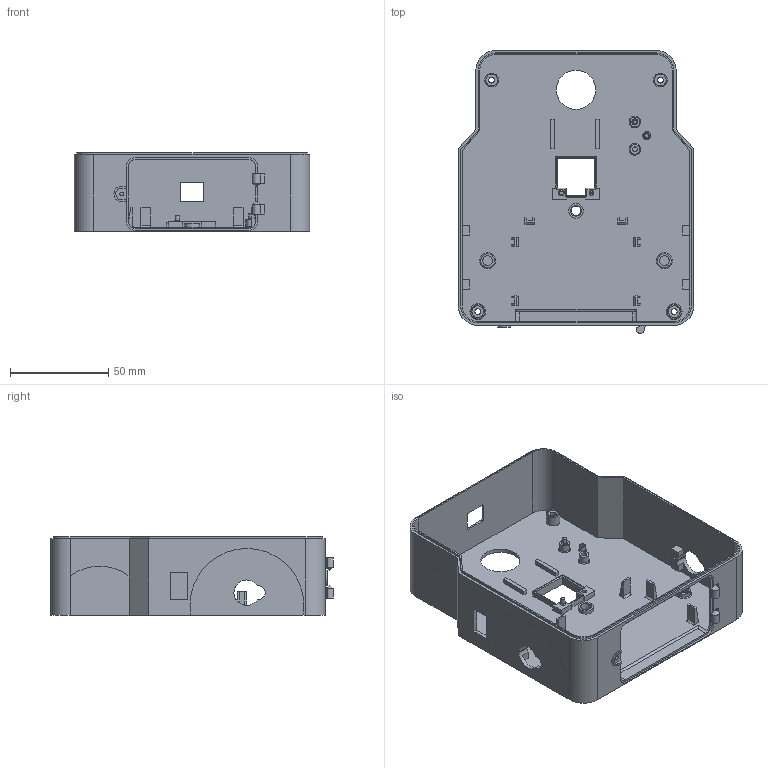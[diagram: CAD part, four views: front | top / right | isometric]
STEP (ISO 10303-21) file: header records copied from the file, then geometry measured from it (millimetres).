
FILE_DESCRIPTION (( 'STEP AP203' ), '1' );
FILE_NAME ('v4v3v2Corpo.STEP', '2026-08-19T20:49:51', ( '' ), ( '' ), 'SwSTEP 2.0', 'SolidWorks 2024', '' );
FILE_SCHEMA (( 'CONFIG_CONTROL_DESIGN' ));
Length unit declared in the file: millimetre
Products named in the file (1): v4v3v2Corpo_Com_mg90d
Bounding box: 120 x 144.09 x 40 mm (x, y, z)
Volume: 63336 mm3; surface area: 67514.9 mm2
Topology: 1 solids, 1 shells, 327 faces, 817 edges, 536 vertices
Faces by surface type: plane 221, cylinder 88, cone 18
Full cylindrical faces by diameter (mm): 1 x2, 2 x4, 2.3 x1, 2.5 x1, 3 x5, 5 x4, 6 x4, 7 x8, 7.5 x1, 20 x1
Entity records: 9535 total; most frequent: CARTESIAN_POINT 1658, DIRECTION 1614, ORIENTED_EDGE 1518, EDGE_CURVE 759, LINE 552, VECTOR 552, AXIS2_PLACEMENT_3D 531, VERTEX_POINT 523
